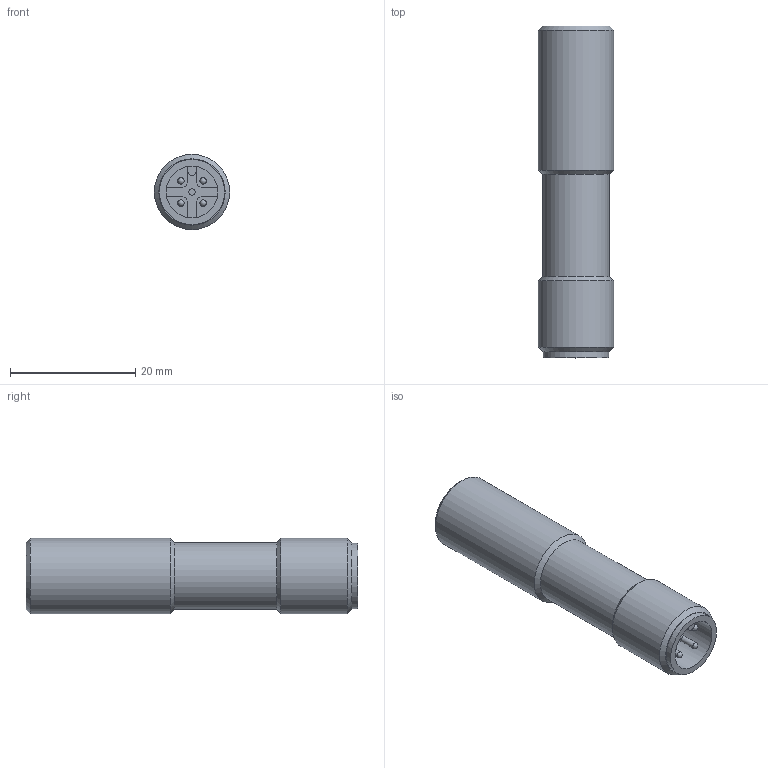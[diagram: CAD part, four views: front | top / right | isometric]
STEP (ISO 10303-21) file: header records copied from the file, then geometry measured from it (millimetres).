
FILE_DESCRIPTION((''),'2;1');
FILE_NAME('K:\Daten\Bauteil3.stp','2013-11-08T17:09:05',('kamp'),(''),'Autodesk Inventor 2008','Autodesk Inventor 2008','');
FILE_SCHEMA(('AUTOMOTIVE_DESIGN { 1 0 10303 214 1 1 1 1 }'));
Length unit declared in the file: millimetre
Products named in the file (1): Bauteil3
Bounding box: 12 x 53 x 12 mm (x, y, z)
Volume: 5106.8 mm3; surface area: 2482.4 mm2
Topology: 2 solids, 2 shells, 112 faces, 293 edges, 189 vertices
Faces by surface type: plane 64, cylinder 24, bspline 16, sphere 4, cone 4
Full cylindrical faces by diameter (mm): 1 x6, 8.3 x1, 10.4 x1, 10.6 x1, 12 x2
Entity records: 3452 total; most frequent: CARTESIAN_POINT 778, ORIENTED_EDGE 538, DIRECTION 496, EDGE_CURVE 269, VERTEX_POINT 188, VECTOR 172, LINE 172, AXIS2_PLACEMENT_3D 162
